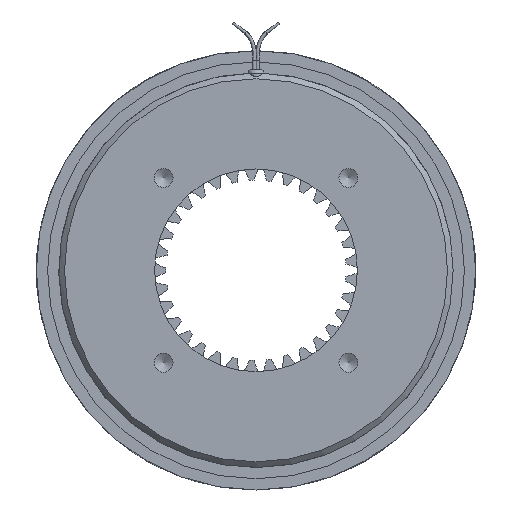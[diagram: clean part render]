
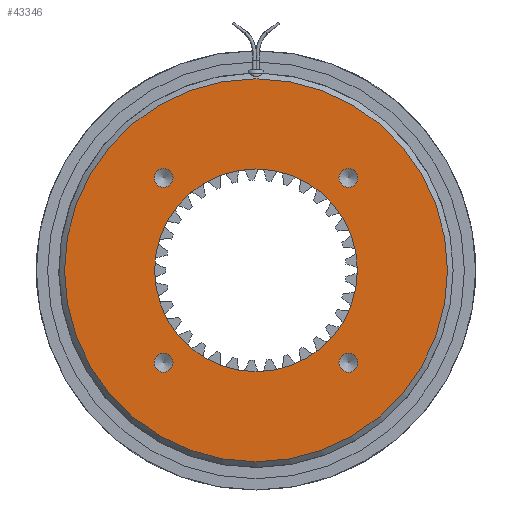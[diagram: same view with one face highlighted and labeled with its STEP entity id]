
A CAD part, left-side view. The second image highlights one B-rep face of the part: STEP entity #43346.
In plain terms, the highlighted planar face has unit normal (-1, 0, 0).
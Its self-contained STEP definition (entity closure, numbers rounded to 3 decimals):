
#419=FACE_BOUND('',#5111,.T.);
#420=FACE_BOUND('',#5112,.T.);
#421=FACE_BOUND('',#5113,.T.);
#422=FACE_BOUND('',#5114,.T.);
#423=FACE_BOUND('',#5115,.T.);
#753=PLANE('',#48770);
#2778=FACE_OUTER_BOUND('',#5110,.T.);
#5110=EDGE_LOOP('',(#36064));
#5111=EDGE_LOOP('',(#36065));
#5112=EDGE_LOOP('',(#36066));
#5113=EDGE_LOOP('',(#36067));
#5114=EDGE_LOOP('',(#36068));
#5115=EDGE_LOOP('',(#36069));
#8624=CIRCLE('',#48769,85.);
#8625=CIRCLE('',#48771,4.188);
#8626=CIRCLE('',#48772,4.188);
#8627=CIRCLE('',#48773,4.188);
#8628=CIRCLE('',#48774,4.188);
#8629=CIRCLE('',#48775,45.);
#18095=VERTEX_POINT('',#75219);
#18096=VERTEX_POINT('',#75223);
#18097=VERTEX_POINT('',#75225);
#18098=VERTEX_POINT('',#75227);
#18099=VERTEX_POINT('',#75229);
#18100=VERTEX_POINT('',#75231);
#24189=EDGE_CURVE('',#18095,#18095,#8624,.T.);
#24190=EDGE_CURVE('',#18096,#18096,#8625,.T.);
#24191=EDGE_CURVE('',#18097,#18097,#8626,.T.);
#24192=EDGE_CURVE('',#18098,#18098,#8627,.T.);
#24193=EDGE_CURVE('',#18099,#18099,#8628,.T.);
#24194=EDGE_CURVE('',#18100,#18100,#8629,.T.);
#36064=ORIENTED_EDGE('',*,*,#24189,.F.);
#36065=ORIENTED_EDGE('',*,*,#24190,.T.);
#36066=ORIENTED_EDGE('',*,*,#24191,.T.);
#36067=ORIENTED_EDGE('',*,*,#24192,.T.);
#36068=ORIENTED_EDGE('',*,*,#24193,.T.);
#36069=ORIENTED_EDGE('',*,*,#24194,.T.);
#43346=ADVANCED_FACE('',(#2778,#419,#420,#421,#422,#423),#753,.T.);
#48769=AXIS2_PLACEMENT_3D('',#75221,#61885,#61886);
#48770=AXIS2_PLACEMENT_3D('',#75222,#61887,#61888);
#48771=AXIS2_PLACEMENT_3D('',#75224,#61889,#61890);
#48772=AXIS2_PLACEMENT_3D('',#75226,#61891,#61892);
#48773=AXIS2_PLACEMENT_3D('',#75228,#61893,#61894);
#48774=AXIS2_PLACEMENT_3D('',#75230,#61895,#61896);
#48775=AXIS2_PLACEMENT_3D('',#75232,#61897,#61898);
#61885=DIRECTION('center_axis',(1.,0.,0.));
#61886=DIRECTION('ref_axis',(0.,0.,-1.));
#61887=DIRECTION('center_axis',(-1.,0.,0.));
#61888=DIRECTION('ref_axis',(0.,0.,1.));
#61889=DIRECTION('center_axis',(1.,0.,0.));
#61890=DIRECTION('ref_axis',(0.,0.,1.));
#61891=DIRECTION('center_axis',(1.,0.,0.));
#61892=DIRECTION('ref_axis',(0.,0.,1.));
#61893=DIRECTION('center_axis',(1.,0.,0.));
#61894=DIRECTION('ref_axis',(0.,0.,1.));
#61895=DIRECTION('center_axis',(1.,0.,0.));
#61896=DIRECTION('ref_axis',(0.,0.,1.));
#61897=DIRECTION('center_axis',(1.,0.,0.));
#61898=DIRECTION('ref_axis',(0.,0.,-1.));
#75219=CARTESIAN_POINT('',(-19.5,-85.,0.));
#75221=CARTESIAN_POINT('Origin',(-19.5,0.,0.));
#75222=CARTESIAN_POINT('Origin',(-19.5,85.,0.));
#75223=CARTESIAN_POINT('',(-19.5,-41.012,36.824));
#75224=CARTESIAN_POINT('Origin',(-19.5,-41.012,41.012));
#75225=CARTESIAN_POINT('',(-19.5,41.012,-45.2));
#75226=CARTESIAN_POINT('Origin',(-19.5,41.012,-41.012));
#75227=CARTESIAN_POINT('',(-19.5,-41.012,-45.2));
#75228=CARTESIAN_POINT('Origin',(-19.5,-41.012,-41.012));
#75229=CARTESIAN_POINT('',(-19.5,41.012,36.824));
#75230=CARTESIAN_POINT('Origin',(-19.5,41.012,41.012));
#75231=CARTESIAN_POINT('',(-19.5,-45.,0.));
#75232=CARTESIAN_POINT('Origin',(-19.5,0.,0.));
